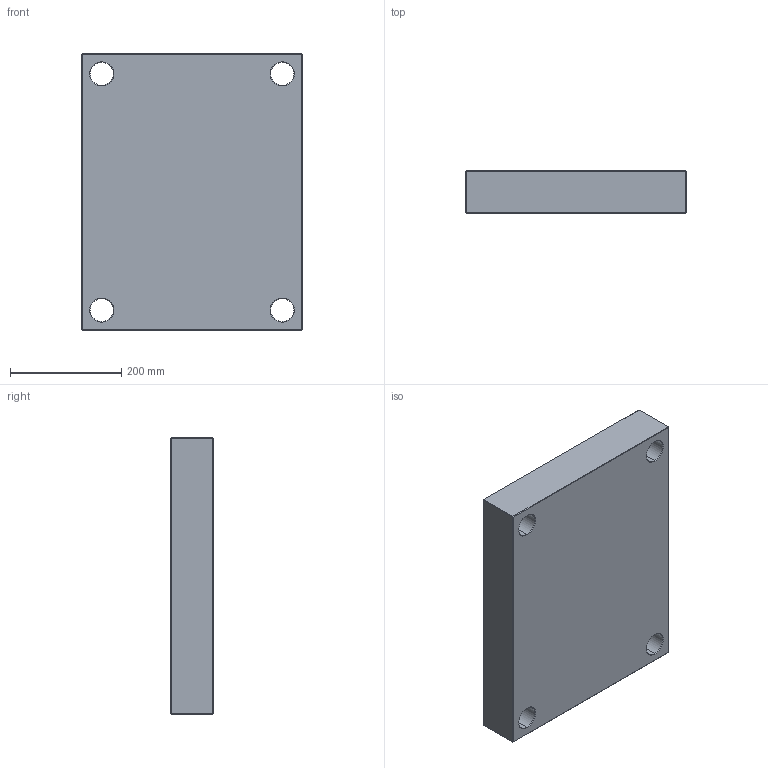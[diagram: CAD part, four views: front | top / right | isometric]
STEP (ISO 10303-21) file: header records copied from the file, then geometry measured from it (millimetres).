
FILE_DESCRIPTION (( 'STEP AP214' ), '1' );
FILE_NAME ('PCX-396x496x76.STEP', '2020-05-04T09:34:04', ( 'August' ), ( '' ), 'SwSTEP 2.0', 'SolidWorks 2018', '' );
FILE_SCHEMA (( 'AUTOMOTIVE_DESIGN' ));
Length unit declared in the file: millimetre
Products named in the file (1): PCX-396x496x76
Bounding box: 396 x 76 x 496 mm (x, y, z)
Volume: 14485810.9 mm3; surface area: 559668.4 mm2
Topology: 1 solids, 1 shells, 82 faces, 168 edges, 96 vertices
Faces by surface type: plane 34, cone 24, cylinder 24
Entity records: 2170 total; most frequent: DIRECTION 406, CARTESIAN_POINT 347, ORIENTED_EDGE 336, EDGE_CURVE 168, AXIS2_PLACEMENT_3D 155, EDGE_LOOP 98, VECTOR 96, VERTEX_POINT 96
